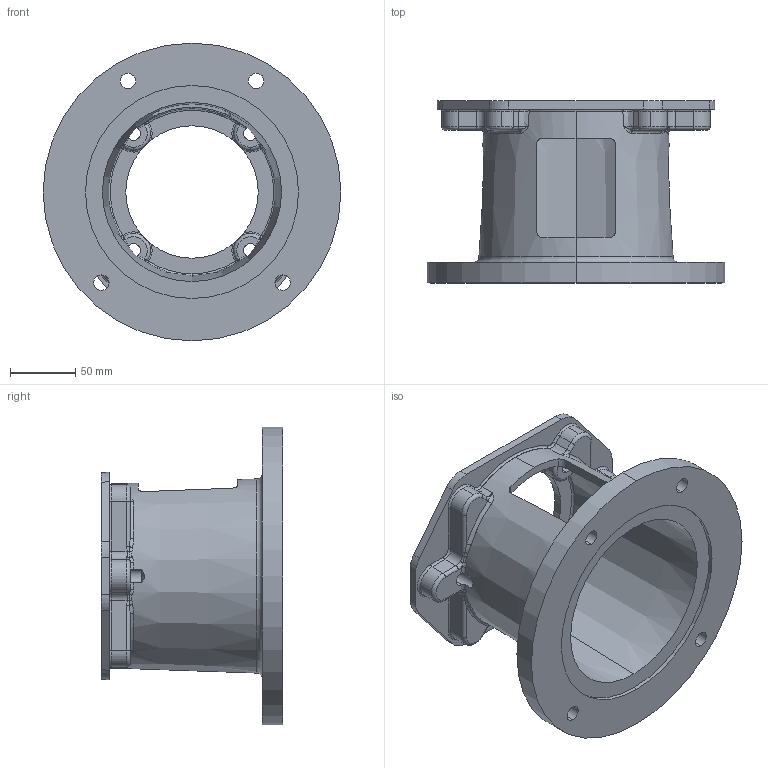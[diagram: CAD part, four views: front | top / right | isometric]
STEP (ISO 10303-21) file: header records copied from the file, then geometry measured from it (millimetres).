
FILE_DESCRIPTION (( 'STEP AP203' ), '1' );
FILE_NAME ('E644552B.STEP', '2014-11-03T18:42:51', ( '' ), ( '' ), 'SwSTEP 2.0', 'SolidWorks 2014', '' );
FILE_SCHEMA (( 'CONFIG_CONTROL_DESIGN' ));
Length unit declared in the file: inch
Products named in the file (1): E644552B
Bounding box: 228.6 x 139.7 x 228.6 mm (x, y, z)
Volume: 887707.1 mm3; surface area: 213467.4 mm2
Topology: 1 solids, 1 shells, 304 faces, 800 edges, 473 vertices
Faces by surface type: torus 87, cylinder 74, bspline 64, plane 43, cone 20, sphere 16
Entity records: 12361 total; most frequent: CARTESIAN_POINT 5240, ORIENTED_EDGE 1560, DIRECTION 1466, EDGE_CURVE 780, AXIS2_PLACEMENT_3D 661, VERTEX_POINT 473, CIRCLE 420, EDGE_LOOP 323
